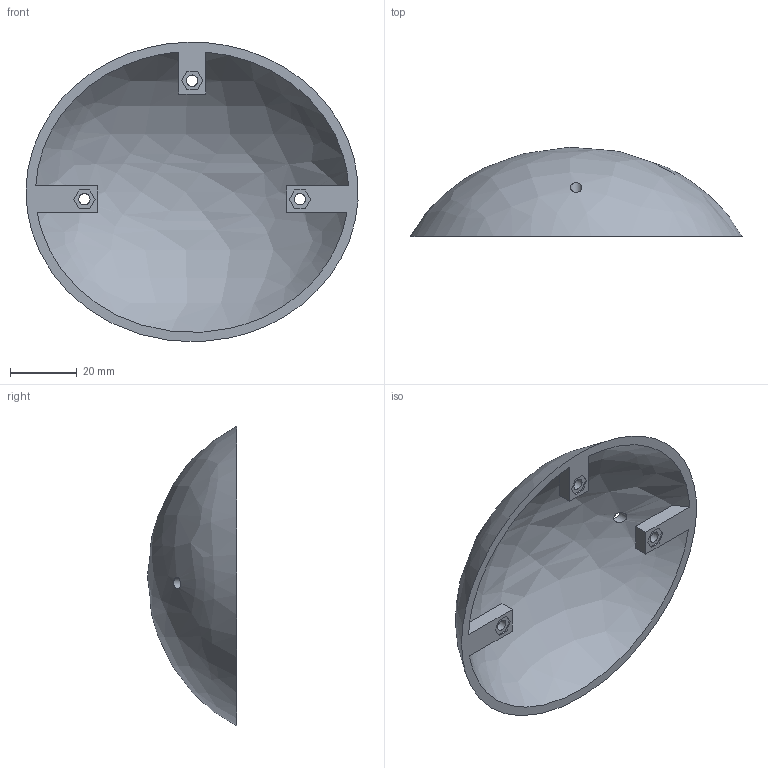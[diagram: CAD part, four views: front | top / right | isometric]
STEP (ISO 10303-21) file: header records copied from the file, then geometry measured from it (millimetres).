
FILE_DESCRIPTION(('FreeCAD Model'),'2;1');
FILE_NAME('Open CASCADE Shape Model','2026-11-20T08:25:32',('FreeCAD'),( 'FreeCAD'),'Open CASCADE STEP processor 7.8','FreeCAD','Unknown');
FILE_SCHEMA(('AUTOMOTIVE_DESIGN { 1 0 10303 214 1 1 1 1 }'));
Length unit declared in the file: millimetre
Products named in the file (1): Open CASCADE STEP translator 7.8 4
Bounding box: 99.33 x 26.69 x 89.59 mm (x, y, z)
Volume: 23140.1 mm3; surface area: 19512.7 mm2
Topology: 1 solids, 1 shells, 42 faces, 122 edges, 86 vertices
Faces by surface type: plane 34, cylinder 6, bspline 2
Full cylindrical faces by diameter (mm): 3.4 x6
Entity records: 2787 total; most frequent: CARTESIAN_POINT 1674, ORIENTED_EDGE 244, DIRECTION 190, EDGE_CURVE 122, VERTEX_POINT 86, LINE 84, VECTOR 84, FACE_BOUND 58
